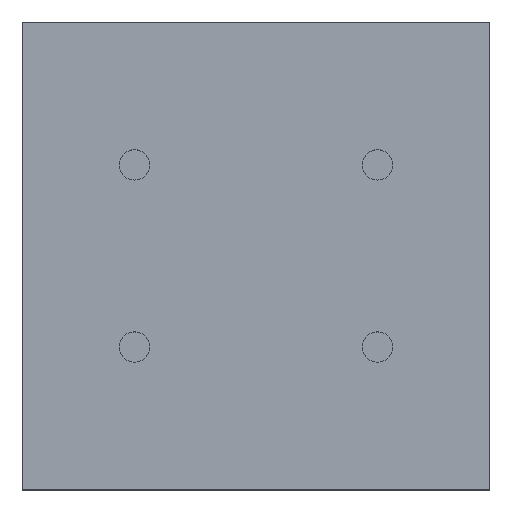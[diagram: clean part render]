
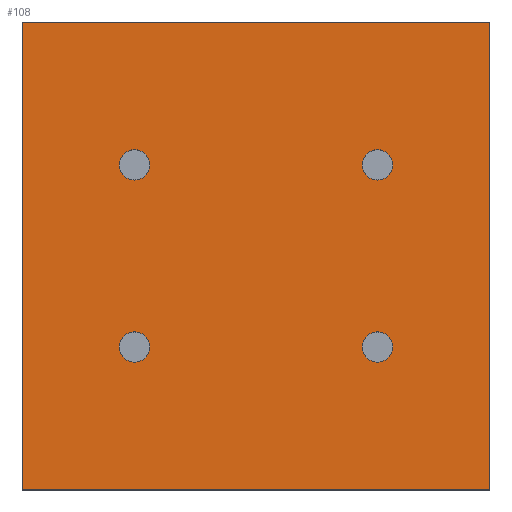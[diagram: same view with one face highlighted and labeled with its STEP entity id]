
A CAD part, top view. The second image highlights one B-rep face of the part: STEP entity #108.
In plain terms, the highlighted planar face has unit normal (0, 0, 1).
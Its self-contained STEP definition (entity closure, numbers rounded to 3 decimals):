
#108 = ADVANCED_FACE( '', ( #178, #179, #180, #181, #182 ), #183, .T. );
#178 = FACE_BOUND( '', #257, .T. );
#179 = FACE_BOUND( '', #258, .T. );
#180 = FACE_BOUND( '', #259, .T. );
#181 = FACE_BOUND( '', #260, .T. );
#182 = FACE_OUTER_BOUND( '', #261, .T. );
#183 = PLANE( '', #262 );
#257 = EDGE_LOOP( '', ( #488, #489 ) );
#258 = EDGE_LOOP( '', ( #490, #491 ) );
#259 = EDGE_LOOP( '', ( #492, #493 ) );
#260 = EDGE_LOOP( '', ( #494, #495 ) );
#261 = EDGE_LOOP( '', ( #496, #497, #498, #499 ) );
#262 = AXIS2_PLACEMENT_3D( '', #500, #501, #502 );
#488 = ORIENTED_EDGE( '', *, *, #549, .T. );
#489 = ORIENTED_EDGE( '', *, *, #550, .T. );
#490 = ORIENTED_EDGE( '', *, *, #545, .T. );
#491 = ORIENTED_EDGE( '', *, *, #552, .T. );
#492 = ORIENTED_EDGE( '', *, *, #541, .T. );
#493 = ORIENTED_EDGE( '', *, *, #554, .T. );
#494 = ORIENTED_EDGE( '', *, *, #537, .T. );
#495 = ORIENTED_EDGE( '', *, *, #556, .T. );
#496 = ORIENTED_EDGE( '', *, *, #573, .T. );
#497 = ORIENTED_EDGE( '', *, *, #567, .T. );
#498 = ORIENTED_EDGE( '', *, *, #570, .T. );
#499 = ORIENTED_EDGE( '', *, *, #572, .T. );
#500 = CARTESIAN_POINT( '', ( 0., 0., 672. ) );
#501 = DIRECTION( '', ( 0., 0., 1. ) );
#502 = DIRECTION( '', ( 1., 0., 0. ) );
#537 = EDGE_CURVE( '', #623, #627, #629, .T. );
#541 = EDGE_CURVE( '', #631, #635, #637, .T. );
#545 = EDGE_CURVE( '', #639, #643, #645, .T. );
#549 = EDGE_CURVE( '', #647, #651, #653, .T. );
#550 = EDGE_CURVE( '', #651, #647, #654, .T. );
#552 = EDGE_CURVE( '', #643, #639, #656, .T. );
#554 = EDGE_CURVE( '', #635, #631, #658, .T. );
#556 = EDGE_CURVE( '', #627, #623, #660, .T. );
#567 = EDGE_CURVE( '', #680, #678, #681, .T. );
#570 = EDGE_CURVE( '', #678, #683, #685, .T. );
#572 = EDGE_CURVE( '', #683, #686, #688, .T. );
#573 = EDGE_CURVE( '', #686, #680, #689, .T. );
#623 = VERTEX_POINT( '', #751 );
#627 = VERTEX_POINT( '', #756 );
#629 = CIRCLE( '', #759, 3. );
#631 = VERTEX_POINT( '', #761 );
#635 = VERTEX_POINT( '', #766 );
#637 = CIRCLE( '', #769, 3. );
#639 = VERTEX_POINT( '', #771 );
#643 = VERTEX_POINT( '', #776 );
#645 = CIRCLE( '', #779, 3. );
#647 = VERTEX_POINT( '', #781 );
#651 = VERTEX_POINT( '', #786 );
#653 = CIRCLE( '', #789, 3. );
#654 = CIRCLE( '', #790, 3. );
#656 = CIRCLE( '', #792, 3. );
#658 = CIRCLE( '', #794, 3. );
#660 = CIRCLE( '', #796, 3. );
#678 = VERTEX_POINT( '', #822 );
#680 = VERTEX_POINT( '', #825 );
#681 = LINE( '', #826, #827 );
#683 = VERTEX_POINT( '', #830 );
#685 = LINE( '', #833, #834 );
#686 = VERTEX_POINT( '', #835 );
#688 = LINE( '', #838, #839 );
#689 = LINE( '', #840, #841 );
#751 = CARTESIAN_POINT( '', ( 3., 6., 672. ) );
#756 = CARTESIAN_POINT( '', ( -3., 6., 672. ) );
#759 = AXIS2_PLACEMENT_3D( '', #907, #908, #909 );
#761 = CARTESIAN_POINT( '', ( 51., 6., 672. ) );
#766 = CARTESIAN_POINT( '', ( 45., 6., 672. ) );
#769 = AXIS2_PLACEMENT_3D( '', #915, #916, #917 );
#771 = CARTESIAN_POINT( '', ( 51., 42., 672. ) );
#776 = CARTESIAN_POINT( '', ( 45., 42., 672. ) );
#779 = AXIS2_PLACEMENT_3D( '', #923, #924, #925 );
#781 = CARTESIAN_POINT( '', ( 3., 42., 672. ) );
#786 = CARTESIAN_POINT( '', ( -3., 42., 672. ) );
#789 = AXIS2_PLACEMENT_3D( '', #931, #932, #933 );
#790 = AXIS2_PLACEMENT_3D( '', #934, #935, #936 );
#792 = AXIS2_PLACEMENT_3D( '', #940, #941, #942 );
#794 = AXIS2_PLACEMENT_3D( '', #946, #947, #948 );
#796 = AXIS2_PLACEMENT_3D( '', #952, #953, #954 );
#822 = CARTESIAN_POINT( '', ( 70.25, -22.25, 672. ) );
#825 = CARTESIAN_POINT( '', ( -22.25, -22.25, 672. ) );
#826 = CARTESIAN_POINT( '', ( -22.25, -22.25, 672. ) );
#827 = VECTOR( '', #967, 1. );
#830 = CARTESIAN_POINT( '', ( 70.25, 70.25, 672. ) );
#833 = CARTESIAN_POINT( '', ( 70.25, -22.25, 672. ) );
#834 = VECTOR( '', #970, 1. );
#835 = CARTESIAN_POINT( '', ( -22.25, 70.25, 672. ) );
#838 = CARTESIAN_POINT( '', ( 70.25, 70.25, 672. ) );
#839 = VECTOR( '', #972, 1. );
#840 = CARTESIAN_POINT( '', ( -22.25, 70.25, 672. ) );
#841 = VECTOR( '', #973, 1. );
#907 = CARTESIAN_POINT( '', ( 0., 6., 672. ) );
#908 = DIRECTION( '', ( 0., 0., -1. ) );
#909 = DIRECTION( '', ( 1., 0., 0. ) );
#915 = CARTESIAN_POINT( '', ( 48., 6., 672. ) );
#916 = DIRECTION( '', ( 0., 0., -1. ) );
#917 = DIRECTION( '', ( 1., 0., 0. ) );
#923 = CARTESIAN_POINT( '', ( 48., 42., 672. ) );
#924 = DIRECTION( '', ( 0., 0., -1. ) );
#925 = DIRECTION( '', ( 1., 0., 0. ) );
#931 = CARTESIAN_POINT( '', ( 0., 42., 672. ) );
#932 = DIRECTION( '', ( 0., 0., -1. ) );
#933 = DIRECTION( '', ( 1., 0., 0. ) );
#934 = CARTESIAN_POINT( '', ( 0., 42., 672. ) );
#935 = DIRECTION( '', ( 0., 0., -1. ) );
#936 = DIRECTION( '', ( 1., 0., 0. ) );
#940 = CARTESIAN_POINT( '', ( 48., 42., 672. ) );
#941 = DIRECTION( '', ( 0., 0., -1. ) );
#942 = DIRECTION( '', ( 1., 0., 0. ) );
#946 = CARTESIAN_POINT( '', ( 48., 6., 672. ) );
#947 = DIRECTION( '', ( 0., 0., -1. ) );
#948 = DIRECTION( '', ( 1., 0., 0. ) );
#952 = CARTESIAN_POINT( '', ( 0., 6., 672. ) );
#953 = DIRECTION( '', ( 0., 0., -1. ) );
#954 = DIRECTION( '', ( 1., 0., 0. ) );
#967 = DIRECTION( '', ( 1., 0., 0. ) );
#970 = DIRECTION( '', ( 0., 1., 0. ) );
#972 = DIRECTION( '', ( -1., 0., 0. ) );
#973 = DIRECTION( '', ( 0., -1., 0. ) );
